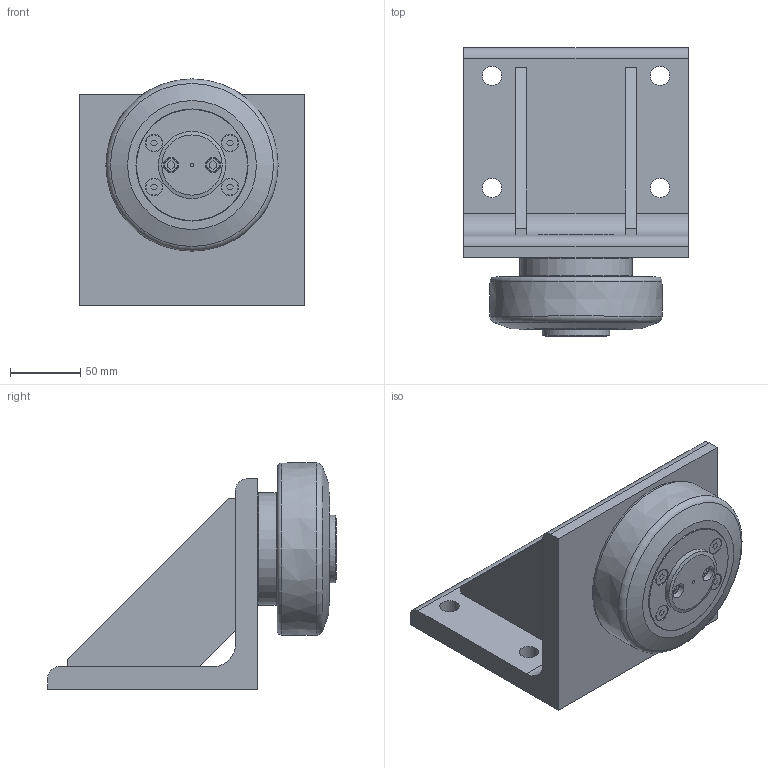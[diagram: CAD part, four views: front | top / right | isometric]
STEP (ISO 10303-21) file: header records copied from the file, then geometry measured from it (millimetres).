
FILE_DESCRIPTION(/* description */ ('-','CAx-IF Rec.Pracs.---Representation and Presentation of Product Manufacturing Information (PMI)---4.0---2014-10-13'),/* implementation_level */ '2;1');
FILE_NAME(/* name */ 'c:\temp\d96f33eb-f308-41f4-99c3-883748d03ce5\ad807c05-fc1b-4150-a7a6-5946548e5f64.stp',/* time_stamp */ '2020-04-01T16:39:24+02:00',/* author */ ('-'),/* organization */ ('NTI CADcenter A/S'),/* preprocessor_version */ 'ST-DEVELOPER v18',/* originating_system */ 'Autodesk Inventor 2020',/* authorisation */ '-');
FILE_SCHEMA (('AP242_MANAGED_MODEL_BASED_3D_ENGINEERING_MIM_LF { 1 0 10303 442 1 1 4 }'));
Length unit declared in the file: millimetre
Products named in the file (1): TR 120.0368 BW1200_Kontur
Bounding box: 160 x 206 x 161.5 mm (x, y, z)
Volume: 1343774.7 mm3; surface area: 165045.8 mm2
Topology: 1 solids, 1 shells, 118 faces, 292 edges, 201 vertices
Faces by surface type: plane 83, cylinder 24, cone 6, torus 4, bspline 1
Full cylindrical faces by diameter (mm): 2.5 x1, 4.917 x2, 11 x2, 11.7 x4, 12.4 x4, 13.835 x4, 48 x1, 80 x3
Entity records: 3633 total; most frequent: CARTESIAN_POINT 638, DIRECTION 626, ORIENTED_EDGE 584, EDGE_CURVE 292, AXIS2_PLACEMENT_3D 216, VERTEX_POINT 201, LINE 194, VECTOR 194
